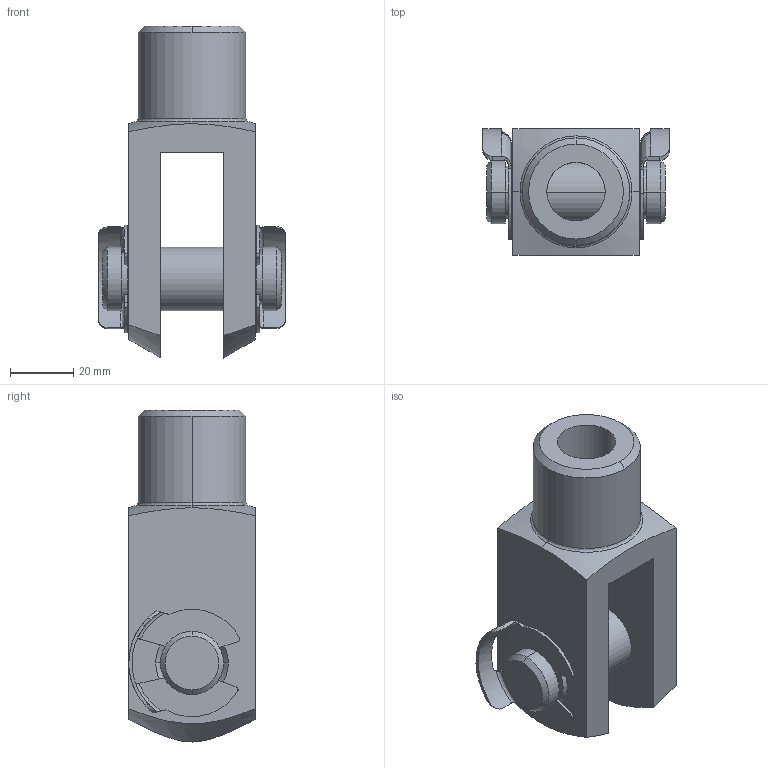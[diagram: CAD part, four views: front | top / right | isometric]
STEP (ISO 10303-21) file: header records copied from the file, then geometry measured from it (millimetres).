
FILE_DESCRIPTION (( 'STEP AP214' ), '1' );
FILE_NAME ('100_Catal_Baglantý.STEP', '2020-12-04T18:51:01', ( '' ), ( '' ), 'SwSTEP 2.0', 'SolidWorks 2021', '' );
FILE_SCHEMA (( 'AUTOMOTIVE_DESIGN' ));
Length unit declared in the file: millimetre
Products named in the file (4): 100 KL¦PS; 100_Catal_Baglantý; 100  額  P危囝Varsay烽an; 100  ÃATAL BAº. (RC)
Assembly tree (4 placements, depth 2):
  100_Catal_Baglantý
    100  額  P危囝Varsay烽an
    100  ÃATAL BAº. (RC)
    100 KL¦PS  x2
Bounding box: 59 x 40 x 105 mm (x, y, z)
Volume: 91924.2 mm3; surface area: 29278.2 mm2
Topology: 4 solids, 4 shells, 121 faces, 305 edges, 196 vertices
Faces by surface type: cylinder 58, plane 38, cone 15, bspline 10
Entity records: 4030 total; most frequent: CARTESIAN_POINT 929, DIRECTION 435, ORIENTED_EDGE 418, EDGE_CURVE 209, AXIS2_PLACEMENT_3D 176, VERTEX_POINT 134, EDGE_LOOP 95, UNCERTAINTY_MEASURE_WITH_UNIT 95
